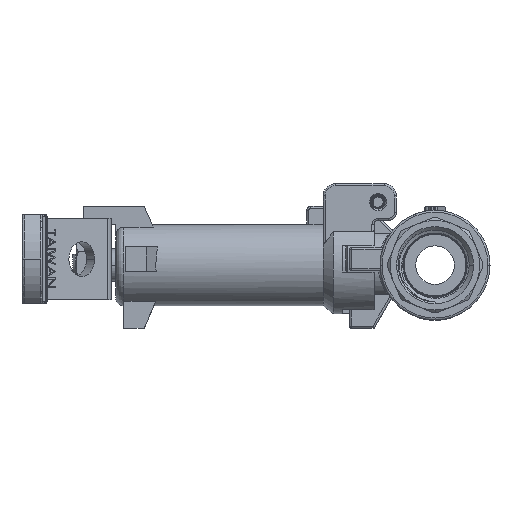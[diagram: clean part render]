
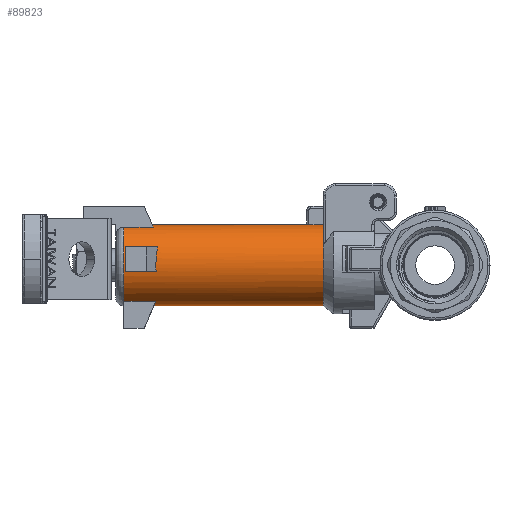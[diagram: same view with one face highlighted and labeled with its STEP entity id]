
A CAD part, left-side view. The second image highlights one B-rep face of the part: STEP entity #89823.
In plain terms, the highlighted cylindrical face has radius 10 mm (diameter 20 mm), a partial arc.
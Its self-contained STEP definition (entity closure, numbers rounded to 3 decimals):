
#347 = DIRECTION ( 'NONE',  ( 0., 1., 0. ) ) ;
#3690 = CIRCLE ( 'NONE', #119678, 10. ) ;
#4461 = CIRCLE ( 'NONE', #123220, 10. ) ;
#6325 = CARTESIAN_POINT ( 'NONE',  ( -9.887, 46.559, -1.5 ) ) ;
#9729 = ORIENTED_EDGE ( 'NONE', *, *, #49648, .T. ) ;
#10121 = CARTESIAN_POINT ( 'NONE',  ( -8.93, 46.143, 4.5 ) ) ;
#10173 = DIRECTION ( 'NONE',  ( 0., 1., 0. ) ) ;
#10964 = CIRCLE ( 'NONE', #138615, 10. ) ;
#13187 = VECTOR ( 'NONE', #35744, 1000. ) ;
#14084 = DIRECTION ( 'NONE',  ( 0., 1., 0. ) ) ;
#14984 = LINE ( 'NONE', #150226, #147961 ) ;
#17864 = ORIENTED_EDGE ( 'NONE', *, *, #127784, .T. ) ;
#19446 = CARTESIAN_POINT ( 'NONE',  ( 0., 45.492, 10. ) ) ;
#19547 = ORIENTED_EDGE ( 'NONE', *, *, #78545, .T. ) ;
#21799 = CARTESIAN_POINT ( 'NONE',  ( 0., 45.492, 0. ) ) ;
#21936 = CARTESIAN_POINT ( 'NONE',  ( 0., 47.109, -10. ) ) ;
#23069 = FACE_BOUND ( 'NONE', #35779, .T. ) ;
#23588 = ORIENTED_EDGE ( 'NONE', *, *, #80990, .T. ) ;
#25187 = CARTESIAN_POINT ( 'NONE',  ( -3.098, 46.951, -9.637 ) ) ;
#25385 = ORIENTED_EDGE ( 'NONE', *, *, #35108, .T. ) ;
#25638 = AXIS2_PLACEMENT_3D ( 'NONE', #77563, #347, #90465 ) ;
#26504 = VERTEX_POINT ( 'NONE', #99154 ) ;
#30133 = CARTESIAN_POINT ( 'NONE',  ( -1.198, 47.543, 10. ) ) ;
#30664 = CARTESIAN_POINT ( 'NONE',  ( 0., 5.5, -10. ) ) ;
#30726 = CIRCLE ( 'NONE', #158223, 10. ) ;
#32940 = LINE ( 'NONE', #152146, #131612 ) ;
#33754 = CARTESIAN_POINT ( 'NONE',  ( -4.5, 45.492, -8.93 ) ) ;
#35108 = EDGE_CURVE ( 'NONE', #128318, #78712, #76891, .T. ) ;
#35744 = DIRECTION ( 'NONE',  ( 0., -1., 0. ) ) ;
#35779 = EDGE_LOOP ( 'NONE', ( #25385, #37501, #23588, #87091 ) ) ;
#37501 = ORIENTED_EDGE ( 'NONE', *, *, #110990, .T. ) ;
#40385 = DIRECTION ( 'NONE',  ( 0., -1., 0. ) ) ;
#40408 = LINE ( 'NONE', #121851, #108810 ) ;
#43094 = CARTESIAN_POINT ( 'NONE',  ( -3.5, 47.268, 9.367 ) ) ;
#43272 = EDGE_CURVE ( 'NONE', #91507, #145440, #32940, .T. ) ;
#43829 = VERTEX_POINT ( 'NONE', #92682 ) ;
#44838 = EDGE_CURVE ( 'NONE', #139967, #145841, #4461, .T. ) ;
#46713 = DIRECTION ( 'NONE',  ( 0., -1., 0. ) ) ;
#49648 = EDGE_CURVE ( 'NONE', #99944, #135245, #99392, .T. ) ;
#51141 = CARTESIAN_POINT ( 'NONE',  ( -4.5, 46.643, -8.93 ) ) ;
#54941 = EDGE_LOOP ( 'NONE', ( #93674, #140611, #116154, #108259, #19547, #9729, #17864, #114233, #155428, #163221 ) ) ;
#55146 = VERTEX_POINT ( 'NONE', #116602 ) ;
#59328 = EDGE_CURVE ( 'NONE', #152249, #43829, #30726, .T. ) ;
#60660 = DIRECTION ( 'NONE',  ( 0., 1., 0. ) ) ;
#61643 = CARTESIAN_POINT ( 'NONE',  ( 0., 5.5, 0. ) ) ;
#70558 = CARTESIAN_POINT ( 'NONE',  ( -10.201, 46.696, 0.567 ) ) ;
#73737 = CARTESIAN_POINT ( 'NONE',  ( 0., 5.5, 0. ) ) ;
#74575 = DIRECTION ( 'NONE',  ( 0., 0., 1. ) ) ;
#75028 = EDGE_CURVE ( 'NONE', #43829, #93730, #10964, .T. ) ;
#76891 =( BOUNDED_CURVE ( )  B_SPLINE_CURVE ( 3, ( #83496, #160769, #70558, #6325 ),
 .UNSPECIFIED., .F., .F. ) 
 B_SPLINE_CURVE_WITH_KNOTS ( ( 4, 4 ),
 ( 5.816, 6.434 ),
 .UNSPECIFIED. ) 
 CURVE ( )  GEOMETRIC_REPRESENTATION_ITEM ( )  RATIONAL_B_SPLINE_CURVE ( ( 1., 0.968, 0.968, 1. ) ) 
 REPRESENTATION_ITEM ( '' )  );
#77040 = CARTESIAN_POINT ( 'NONE',  ( 0., 47.109, -10. ) ) ;
#77563 = CARTESIAN_POINT ( 'NONE',  ( 0., 54., 0. ) ) ;
#78545 = EDGE_CURVE ( 'NONE', #93730, #99944, #99073, .T. ) ;
#78712 = VERTEX_POINT ( 'NONE', #138213 ) ;
#80990 = EDGE_CURVE ( 'NONE', #55146, #26504, #126885, .T. ) ;
#83496 = CARTESIAN_POINT ( 'NONE',  ( -8.93, 46.143, 4.5 ) ) ;
#84133 = DIRECTION ( 'NONE',  ( 0., 1., 0. ) ) ;
#86662 = DIRECTION ( 'NONE',  ( 0., 0., 1. ) ) ;
#87091 = ORIENTED_EDGE ( 'NONE', *, *, #109220, .T. ) ;
#87634 = CARTESIAN_POINT ( 'NONE',  ( 0., 47.543, 10. ) ) ;
#87768 = CARTESIAN_POINT ( 'NONE',  ( -4.5, 46.643, -8.93 ) ) ;
#88818 = LINE ( 'NONE', #33754, #153386 ) ;
#89823 = ADVANCED_FACE ( 'NONE', ( #95597, #23069 ), #152102, .T. ) ;
#90465 = DIRECTION ( 'NONE',  ( 0., 0., -1. ) ) ;
#91204 = CARTESIAN_POINT ( 'NONE',  ( 0., 5.5, 0. ) ) ;
#91507 = VERTEX_POINT ( 'NONE', #30664 ) ;
#92682 = CARTESIAN_POINT ( 'NONE',  ( -3.122, 5.5, 9.5 ) ) ;
#93674 = ORIENTED_EDGE ( 'NONE', *, *, #43272, .F. ) ;
#93730 = VERTEX_POINT ( 'NONE', #144875 ) ;
#95076 = VECTOR ( 'NONE', #160921, 1000. ) ;
#95597 = FACE_OUTER_BOUND ( 'NONE', #54941, .T. ) ;
#98885 = DIRECTION ( 'NONE',  ( 0., 1., 0. ) ) ;
#98906 = DIRECTION ( 'NONE',  ( 0., 0., 1. ) ) ;
#99073 = LINE ( 'NONE', #19446, #95076 ) ;
#99154 = CARTESIAN_POINT ( 'NONE',  ( -8.93, 54., 4.5 ) ) ;
#99392 =( BOUNDED_CURVE ( )  B_SPLINE_CURVE ( 3, ( #120204, #30133, #107215, #133134 ),
 .UNSPECIFIED., .F., .F. ) 
 B_SPLINE_CURVE_WITH_KNOTS ( ( 4, 4 ),
 ( 0., 0.358 ),
 .UNSPECIFIED. ) 
 CURVE ( )  GEOMETRIC_REPRESENTATION_ITEM ( )  RATIONAL_B_SPLINE_CURVE ( ( 1., 0.989, 0.989, 1. ) ) 
 REPRESENTATION_ITEM ( '' )  );
#99944 = VERTEX_POINT ( 'NONE', #87634 ) ;
#104159 = DIRECTION ( 'NONE',  ( 0., 0., 1. ) ) ;
#107215 = CARTESIAN_POINT ( 'NONE',  ( -2.377, 47.451, 9.787 ) ) ;
#108259 = ORIENTED_EDGE ( 'NONE', *, *, #75028, .T. ) ;
#108810 = VECTOR ( 'NONE', #84133, 1000. ) ;
#109220 = EDGE_CURVE ( 'NONE', #26504, #128318, #128027, .T. ) ;
#110990 = EDGE_CURVE ( 'NONE', #78712, #55146, #14984, .T. ) ;
#114233 = ORIENTED_EDGE ( 'NONE', *, *, #44838, .T. ) ;
#115490 = EDGE_CURVE ( 'NONE', #145841, #162191, #88818, .T. ) ;
#116154 = ORIENTED_EDGE ( 'NONE', *, *, #59328, .T. ) ;
#116602 = CARTESIAN_POINT ( 'NONE',  ( -9.887, 54., -1.5 ) ) ;
#117481 = CARTESIAN_POINT ( 'NONE',  ( 0., 54.5, 0. ) ) ;
#119678 = AXIS2_PLACEMENT_3D ( 'NONE', #61643, #151786, #74575 ) ;
#120204 = CARTESIAN_POINT ( 'NONE',  ( 0., 47.543, 10. ) ) ;
#121851 = CARTESIAN_POINT ( 'NONE',  ( -3.5, 45.492, 9.367 ) ) ;
#123220 = AXIS2_PLACEMENT_3D ( 'NONE', #117481, #40385, #130423 ) ;
#126545 = AXIS2_PLACEMENT_3D ( 'NONE', #21799, #60660, #98906 ) ;
#126885 = CIRCLE ( 'NONE', #25638, 10. ) ;
#127784 = EDGE_CURVE ( 'NONE', #135245, #139967, #40408, .T. ) ;
#128027 = LINE ( 'NONE', #138734, #13187 ) ;
#128318 = VERTEX_POINT ( 'NONE', #10121 ) ;
#130423 = DIRECTION ( 'NONE',  ( 0., 0., -1. ) ) ;
#131612 = VECTOR ( 'NONE', #10173, 1000. ) ;
#133134 = CARTESIAN_POINT ( 'NONE',  ( -3.5, 47.268, 9.367 ) ) ;
#135245 = VERTEX_POINT ( 'NONE', #43094 ) ;
#136658 = CARTESIAN_POINT ( 'NONE',  ( -4.5, 54.5, -8.93 ) ) ;
#138213 = CARTESIAN_POINT ( 'NONE',  ( -9.887, 46.559, -1.5 ) ) ;
#138615 = AXIS2_PLACEMENT_3D ( 'NONE', #73737, #163954, #86662 ) ;
#138734 = CARTESIAN_POINT ( 'NONE',  ( -8.93, 45.492, 4.5 ) ) ;
#139967 = VERTEX_POINT ( 'NONE', #148859 ) ;
#140046 = CARTESIAN_POINT ( 'NONE',  ( -8.25, 5.5, 5.651 ) ) ;
#140611 = ORIENTED_EDGE ( 'NONE', *, *, #156053, .T. ) ;
#143788 =( BOUNDED_CURVE ( )  B_SPLINE_CURVE ( 3, ( #51141, #25187, #154247, #77040 ),
 .UNSPECIFIED., .F., .F. ) 
 B_SPLINE_CURVE_WITH_KNOTS ( ( 4, 4 ),
 ( 5.816, 6.283 ),
 .UNSPECIFIED. ) 
 CURVE ( )  GEOMETRIC_REPRESENTATION_ITEM ( )  RATIONAL_B_SPLINE_CURVE ( ( 1., 0.982, 0.982, 1. ) ) 
 REPRESENTATION_ITEM ( '' )  );
#144875 = CARTESIAN_POINT ( 'NONE',  ( 0., 5.5, 10. ) ) ;
#145440 = VERTEX_POINT ( 'NONE', #21936 ) ;
#145841 = VERTEX_POINT ( 'NONE', #136658 ) ;
#147961 = VECTOR ( 'NONE', #98885, 1000. ) ;
#148859 = CARTESIAN_POINT ( 'NONE',  ( -3.5, 54.5, 9.367 ) ) ;
#150226 = CARTESIAN_POINT ( 'NONE',  ( -9.887, 45.492, -1.5 ) ) ;
#151786 = DIRECTION ( 'NONE',  ( 0., 1., 0. ) ) ;
#152102 = CYLINDRICAL_SURFACE ( 'NONE', #126545, 10. ) ;
#152146 = CARTESIAN_POINT ( 'NONE',  ( 0., 45.492, -10. ) ) ;
#152249 = VERTEX_POINT ( 'NONE', #140046 ) ;
#153386 = VECTOR ( 'NONE', #46713, 1000. ) ;
#154247 = CARTESIAN_POINT ( 'NONE',  ( -1.57, 47.109, -10. ) ) ;
#155428 = ORIENTED_EDGE ( 'NONE', *, *, #115490, .T. ) ;
#156053 = EDGE_CURVE ( 'NONE', #91507, #152249, #3690, .T. ) ;
#158223 = AXIS2_PLACEMENT_3D ( 'NONE', #91204, #14084, #104159 ) ;
#160513 = EDGE_CURVE ( 'NONE', #162191, #145440, #143788, .T. ) ;
#160769 = CARTESIAN_POINT ( 'NONE',  ( -9.871, 46.553, 2.633 ) ) ;
#160921 = DIRECTION ( 'NONE',  ( 0., 1., 0. ) ) ;
#162191 = VERTEX_POINT ( 'NONE', #87768 ) ;
#163221 = ORIENTED_EDGE ( 'NONE', *, *, #160513, .T. ) ;
#163954 = DIRECTION ( 'NONE',  ( 0., 1., 0. ) ) ;
